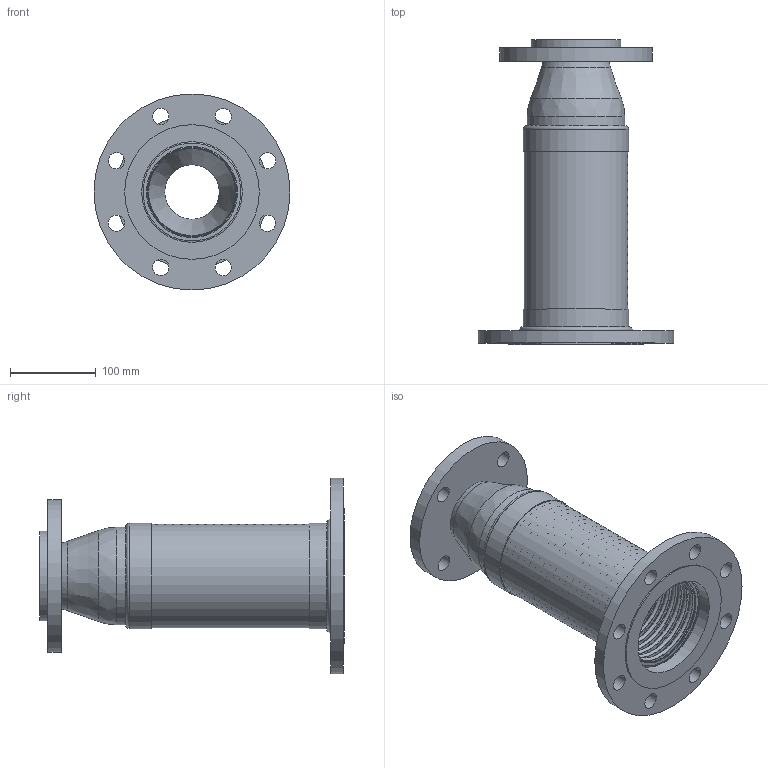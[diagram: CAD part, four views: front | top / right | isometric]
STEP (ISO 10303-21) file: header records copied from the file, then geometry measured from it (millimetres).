
FILE_DESCRIPTION((''),'2;1');
FILE_NAME('C:\2012_Work\Designs\RFFL\RFFL-4x2.5in.stp','2013-08-19T14:38:05',('KShiels'),(''),'Autodesk Inventor 2012','Autodesk Inventor 2012','');
FILE_SCHEMA(('AUTOMOTIVE_DESIGN { 1 0 10303 214 1 1 1 1 }'));
Length unit declared in the file: inch
Products named in the file (9): RFFL-4x2; RFFL-4x2_Welds; A-30995_4in_RFFL-BRAID; A-30995_4in_RFFL-BELLOWS; A-30995_4in_RFFL-BRAID-COLLAR; A-30988_4in-FIXED-FLANGE; A-30989_2; A-30991_4x2; A-30990_2
Assembly tree (9 placements, depth 2):
  RFFL-4x2
    RFFL-4x2_Welds
    A-30995_4in_RFFL-BRAID
    A-30995_4in_RFFL-BELLOWS
    A-30995_4in_RFFL-BRAID-COLLAR  x2
    A-30988_4in-FIXED-FLANGE
    A-30989_2
    A-30991_4x2
    A-30990_2
Bounding box: 228.6 x 355.76 x 228.6 mm (x, y, z)
Volume: 1063789.9 mm3; surface area: 839682 mm2
Topology: 11 solids, 11 shells, 264 faces, 445 edges, 301 vertices
Faces by surface type: plane 120, torus 103, cylinder 32, cone 5, bspline 4
Full cylindrical faces by diameter (mm): 19.05 x12, 63.5 x1, 73.812 x1, 76.2 x3, 101.6 x1, 104.775 x1, 113.64 x2, 117.475 x1, 119.888 x1, 120.701 x3, 123.082 x3, 157.163 x1, 177.8 x1, 228.6 x1
Entity records: 6630 total; most frequent: CARTESIAN_POINT 1739, DIRECTION 1080, ORIENTED_EDGE 562, EDGE_LOOP 541, AXIS2_PLACEMENT_3D 540, EDGE_CURVE 281, FACE_BOUND 281, VERTEX_POINT 278
